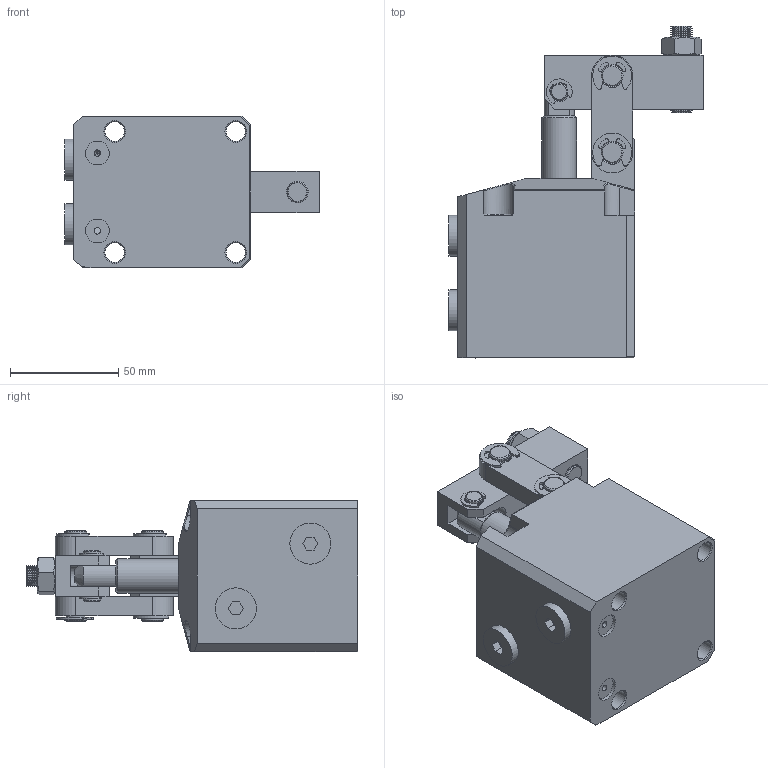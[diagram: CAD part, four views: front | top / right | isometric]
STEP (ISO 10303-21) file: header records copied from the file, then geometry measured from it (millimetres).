
FILE_DESCRIPTION(/* description */ ('STEP AP214'),/* implementation_level */ '2;1');
FILE_NAME(/* name */ 'D:\Vault_2016\Projekty\Clamptek\Hydraulic\CBLU\CBLU-45\STEP\CBLU-45G.stp',/* time_stamp */ '2021-05-06T12:39:44+02:00',/* author */ ('user'),/* organization */ (''),/* preprocessor_version */ 'ST-DEVELOPER v18.1',/* originating_system */ 'Autodesk Inventor 2021',/* authorisation */ '');
FILE_SCHEMA (('AUTOMOTIVE_DESIGN { 1 0 10303 214 3 1 1 }'));
Length unit declared in the file: millimetre
Products named in the file (12): CBLU-45G; 45C±¾Ìå_1_1_2; Á¬¸Ë; Áã¼þ3_1_2; 45Ñ¹°å; ¶ÌÏúÖá; ³¤ÏúÖá; Ð¡µ¯; ´ó¿Û; ÂÝÄ¸; ÂÝË¨M10; ÄÚÁù½Ç¶ÂÍ·×
îÐÂ1-4
Assembly tree (18 placements, depth 2):
  CBLU-45G
    45C±¾Ìå_1_1_2
    Á¬¸Ë  x2
    Áã¼þ3_1_2
    45Ñ¹°å
    ¶ÌÏúÖá
    ³¤ÏúÖá  x2
    Ð¡µ¯  x2
    ´ó¿Û  x4
    ÂÝÄ¸
    ÂÝË¨M10
    ÄÚÁù½Ç¶ÂÍ·×
îÐÂ1-4  x2
Bounding box: 117.5 x 153.5 x 70 mm (x, y, z)
Volume: 453938.3 mm3; surface area: 90188.5 mm2
Topology: 18 solids, 18 shells, 488 faces, 1223 edges, 793 vertices
Faces by surface type: plane 178, cylinder 170, cone 131, bspline 9
Full cylindrical faces by diameter (mm): 3 x3, 6.9 x1, 7 x1, 8 x6, 8.376 x1, 8.5 x1, 8.9 x2, 9 x6, 10 x52, 11 x4, 13 x2, 16 x2, 19 x2, 45 x2
Entity records: 13159 total; most frequent: CARTESIAN_POINT 3364, DIRECTION 2092, ORIENTED_EDGE 1866, EDGE_CURVE 933, AXIS2_PLACEMENT_3D 812, VERTEX_POINT 601, LINE 468, VECTOR 468
